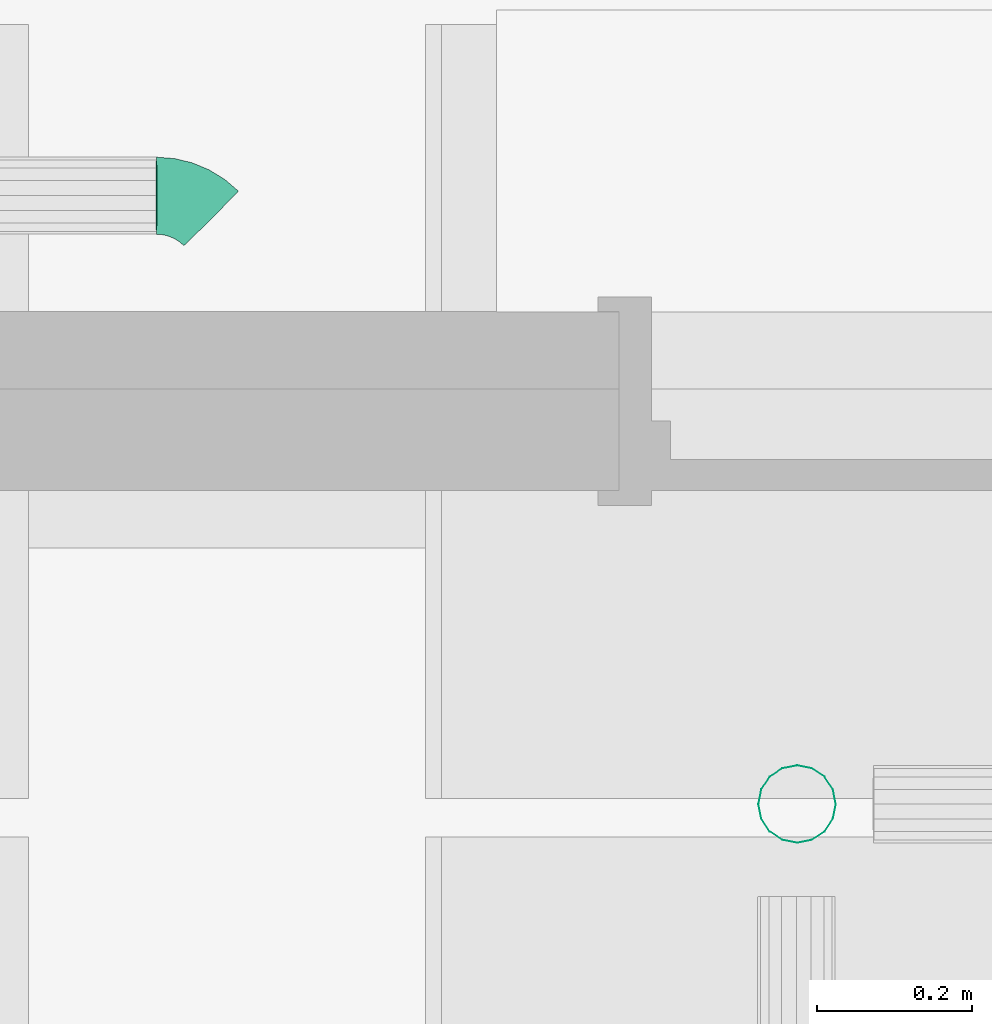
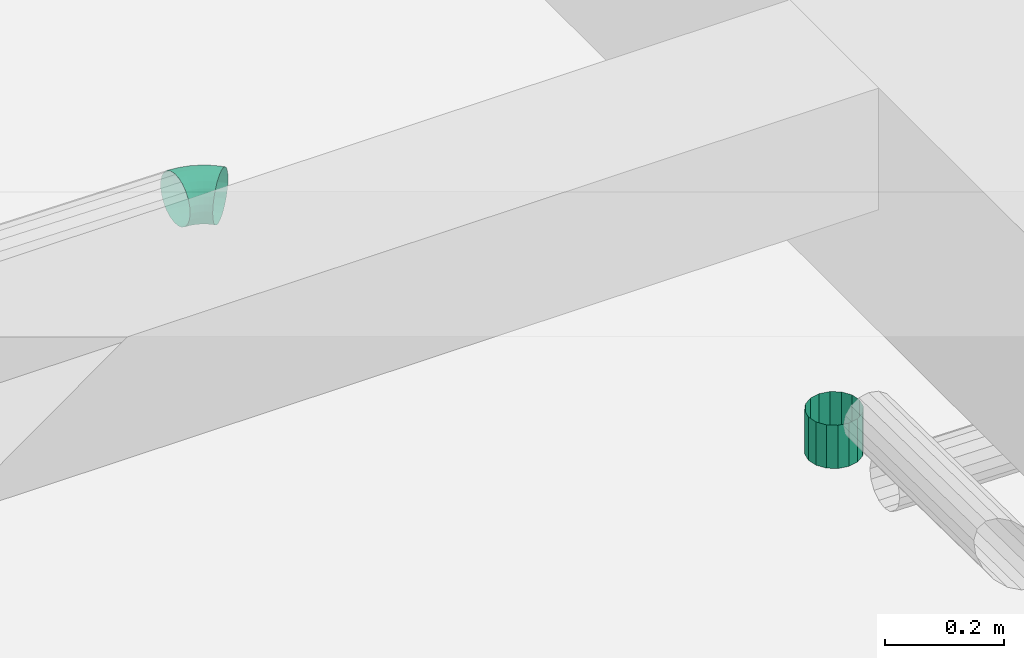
# One storey, part 96 of 108: 1 flow fitting, 1 flow segment.
"""IFC2X3 building model written with IfcOpenShell, lengths in metres."""

from ifc_helpers import new_model, entity, si_unit, converted_unit, derived_unit, money_unit, direction, frame, origin_with_axes, place, context, subcontext, project, spatial, open_shell, faceted_brep, surface_model, material, type_object, element, save


model = new_model("IFC2X3")

# Units and contexts
model_context = context("Model", 3, precision=1e-05, world=origin_with_axes(), true_north=direction((0.0, 1.0)))
body_context = subcontext(model_context, "Body", "Model", "MODEL_VIEW", scale=1.0)
ifc_project = project(units=[si_unit("LENGTHUNIT", "METRE"), si_unit("AREAUNIT", "SQUARE_METRE"), si_unit("VOLUMEUNIT", "CUBIC_METRE"), si_unit("ABSORBEDDOSEUNIT", "GRAY"), si_unit("AMOUNTOFSUBSTANCEUNIT", "MOLE"), si_unit("DOSEEQUIVALENTUNIT", "SIEVERT"), si_unit("ELECTRICCAPACITANCEUNIT", "FARAD"), si_unit("ELECTRICCHARGEUNIT", "COULOMB"), si_unit("ELECTRICCONDUCTANCEUNIT", "SIEMENS"), si_unit("ELECTRICCURRENTUNIT", "AMPERE"), si_unit("ELECTRICRESISTANCEUNIT", "OHM"), si_unit("ELECTRICVOLTAGEUNIT", "VOLT"), si_unit("ENERGYUNIT", "JOULE"), si_unit("FORCEUNIT", "NEWTON"), si_unit("FREQUENCYUNIT", "HERTZ"), si_unit("ILLUMINANCEUNIT", "LUX"), si_unit("INDUCTANCEUNIT", "HENRY"), si_unit("LUMINOUSFLUXUNIT", "LUMEN"), si_unit("LUMINOUSINTENSITYUNIT", "CANDELA"), si_unit("MAGNETICFLUXDENSITYUNIT", "TESLA"), si_unit("MAGNETICFLUXUNIT", "WEBER"), si_unit("MASSUNIT", "GRAM"), converted_unit("PLANEANGLEUNIT", "degree", entity("IfcReal", 0.0174532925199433), si_unit("PLANEANGLEUNIT", "RADIAN"), dimensions=[0, 0, 0, 0, 0, 0, 0]), si_unit("POWERUNIT", "WATT"), si_unit("PRESSUREUNIT", "PASCAL"), si_unit("RADIOACTIVITYUNIT", "BECQUEREL"), si_unit("SOLIDANGLEUNIT", "STERADIAN"), si_unit("THERMODYNAMICTEMPERATUREUNIT", "KELVIN"), si_unit("TIMEUNIT", "SECOND"), derived_unit("ACCELERATIONUNIT", [(si_unit("LENGTHUNIT", "METRE"), 1), (si_unit("TIMEUNIT", "SECOND"), -2)]), derived_unit("ANGULARVELOCITYUNIT", [(converted_unit("PLANEANGLEUNIT", "degree", entity("IfcReal", 0.0174532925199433), si_unit("PLANEANGLEUNIT", "RADIAN"), dimensions=[0, 0, 0, 0, 0, 0, 0]), 1), (si_unit("TIMEUNIT", "SECOND"), -1)]), derived_unit("CURVATUREUNIT", [(converted_unit("PLANEANGLEUNIT", "degree", entity("IfcReal", 0.0174532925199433), si_unit("PLANEANGLEUNIT", "RADIAN"), dimensions=[0, 0, 0, 0, 0, 0, 0]), 1), (si_unit("LENGTHUNIT", "METRE"), -1)]), derived_unit("DYNAMICVISCOSITYUNIT", [(si_unit("PRESSUREUNIT", "PASCAL"), 1), (si_unit("TIMEUNIT", "SECOND"), 1)]), derived_unit("HEATFLUXDENSITYUNIT", [(si_unit("POWERUNIT", "WATT"), 1), (si_unit("LENGTHUNIT", "METRE"), -2)]), derived_unit("HEATINGVALUEUNIT", [(si_unit("ENERGYUNIT", "JOULE"), 1), (si_unit("MASSUNIT", "GRAM"), -1)]), derived_unit("INTEGERCOUNTRATEUNIT", [(si_unit("TIMEUNIT", "SECOND"), -1)]), derived_unit("IONCONCENTRATIONUNIT", [(si_unit("MASSUNIT", "GRAM"), 1), (si_unit("VOLUMEUNIT", "CUBIC_METRE"), -1)]), derived_unit("ISOTHERMALMOISTURECAPACITYUNIT", [(si_unit("VOLUMEUNIT", "CUBIC_METRE"), 1), (si_unit("MASSUNIT", "GRAM"), -1)]), derived_unit("KINEMATICVISCOSITYUNIT", [(si_unit("AREAUNIT", "SQUARE_METRE"), 1), (si_unit("TIMEUNIT", "SECOND"), -1)]), derived_unit("LINEARFORCEUNIT", [(si_unit("FORCEUNIT", "NEWTON"), 1), (si_unit("LENGTHUNIT", "METRE"), -1)]), derived_unit("LINEARMOMENTUNIT", [(si_unit("FORCEUNIT", "NEWTON"), 1), (si_unit("LENGTHUNIT", "METRE"), -1)]), derived_unit("LINEARSTIFFNESSUNIT", [(si_unit("FORCEUNIT", "NEWTON"), 1), (si_unit("LENGTHUNIT", "METRE"), -1)]), derived_unit("LINEARVELOCITYUNIT", [(si_unit("LENGTHUNIT", "METRE"), 1), (si_unit("TIMEUNIT", "SECOND"), -1)]), derived_unit("LUMINOUSINTENSITYDISTRIBUTIONUNIT", [(si_unit("LUMINOUSINTENSITYUNIT", "CANDELA"), 1), (si_unit("LUMINOUSFLUXUNIT", "LUMEN"), -1)]), derived_unit("MASSDENSITYUNIT", [(si_unit("MASSUNIT", "GRAM"), 1), (si_unit("VOLUMEUNIT", "CUBIC_METRE"), -1)]), derived_unit("MASSFLOWRATEUNIT", [(si_unit("MASSUNIT", "GRAM"), 1), (si_unit("TIMEUNIT", "SECOND"), -1)]), derived_unit("MASSPERLENGTHUNIT", [(si_unit("MASSUNIT", "GRAM"), 1), (si_unit("LENGTHUNIT", "METRE"), -1)]), derived_unit("MODULUSOFELASTICITYUNIT", [(si_unit("FORCEUNIT", "NEWTON"), 1), (si_unit("AREAUNIT", "SQUARE_METRE"), -1)]), derived_unit("MODULUSOFLINEARSUBGRADEREACTIONUNIT", [(si_unit("FORCEUNIT", "NEWTON"), 1), (si_unit("LENGTHUNIT", "METRE"), -2)]), derived_unit("MODULUSOFROTATIONALSUBGRADEREACTIONUNIT", [(si_unit("FORCEUNIT", "NEWTON"), 1), (si_unit("LENGTHUNIT", "METRE"), 1)]), derived_unit("MODULUSOFSUBGRADEREACTIONUNIT", [(si_unit("FORCEUNIT", "NEWTON"), 1), (si_unit("VOLUMEUNIT", "CUBIC_METRE"), -1)]), derived_unit("MOISTUREDIFFUSIVITYUNIT", [(si_unit("VOLUMEUNIT", "CUBIC_METRE"), 1), (si_unit("TIMEUNIT", "SECOND"), -1)]), derived_unit("MOLECULARWEIGHTUNIT", [(si_unit("MASSUNIT", "GRAM"), 1), (si_unit("AMOUNTOFSUBSTANCEUNIT", "MOLE"), -1)]), derived_unit("PLANARFORCEUNIT", [(si_unit("FORCEUNIT", "NEWTON"), 1), (si_unit("LENGTHUNIT", "METRE"), -2)]), derived_unit("ROTATIONALFREQUENCYUNIT", [(si_unit("TIMEUNIT", "SECOND"), -1)]), derived_unit("ROTATIONALMASSUNIT", [(si_unit("MASSUNIT", "GRAM"), 1), (si_unit("LENGTHUNIT", "METRE"), 2)]), derived_unit("ROTATIONALSTIFFNESSUNIT", [(si_unit("FORCEUNIT", "NEWTON"), 1), (si_unit("LENGTHUNIT", "METRE"), 1), (converted_unit("PLANEANGLEUNIT", "degree", entity("IfcReal", 0.0174532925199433), si_unit("PLANEANGLEUNIT", "RADIAN"), dimensions=[0, 0, 0, 0, 0, 0, 0]), -1)]), derived_unit("SECTIONAREAINTEGRALUNIT", [(si_unit("LENGTHUNIT", "METRE"), 5)]), derived_unit("SECTIONMODULUSUNIT", [(si_unit("LENGTHUNIT", "METRE"), 3)]), derived_unit("SHEARMODULUSUNIT", [(si_unit("FORCEUNIT", "NEWTON"), 1), (si_unit("AREAUNIT", "SQUARE_METRE"), -1)]), derived_unit("SOUNDPOWERUNIT", [(si_unit("ENERGYUNIT", "JOULE"), 1), (si_unit("TIMEUNIT", "SECOND"), -1)]), derived_unit("SPECIFICHEATCAPACITYUNIT", [(si_unit("FORCEUNIT", "NEWTON"), 1), (si_unit("MASSUNIT", "GRAM"), -1), (si_unit("THERMODYNAMICTEMPERATUREUNIT", "KELVIN"), -1)]), derived_unit("TEMPERATUREGRADIENTUNIT", [(si_unit("THERMODYNAMICTEMPERATUREUNIT", "KELVIN"), 1), (si_unit("LENGTHUNIT", "METRE"), -1)]), derived_unit("THERMALADMITTANCEUNIT", [(si_unit("POWERUNIT", "WATT"), 1), (si_unit("AREAUNIT", "SQUARE_METRE"), -1), (si_unit("THERMODYNAMICTEMPERATUREUNIT", "KELVIN"), -1)]), derived_unit("THERMALCONDUCTANCEUNIT", [(si_unit("POWERUNIT", "WATT"), 1), (si_unit("LENGTHUNIT", "METRE"), -1), (si_unit("THERMODYNAMICTEMPERATUREUNIT", "KELVIN"), -1)]), derived_unit("THERMALEXPANSIONCOEFFICIENTUNIT", [(si_unit("THERMODYNAMICTEMPERATUREUNIT", "KELVIN"), -1)]), derived_unit("THERMALRESISTANCEUNIT", [(si_unit("AREAUNIT", "SQUARE_METRE"), 1), (si_unit("POWERUNIT", "WATT"), -1)]), derived_unit("THERMALTRANSMITTANCEUNIT", [(si_unit("POWERUNIT", "WATT"), 1), (si_unit("AREAUNIT", "SQUARE_METRE"), -1), (si_unit("THERMODYNAMICTEMPERATUREUNIT", "KELVIN"), -1)]), derived_unit("TORQUEUNIT", [(si_unit("FORCEUNIT", "NEWTON"), 1), (si_unit("LENGTHUNIT", "METRE"), 1)]), derived_unit("VAPORPERMEABILITYUNIT", [(si_unit("MASSUNIT", "GRAM"), 1), (si_unit("TIMEUNIT", "SECOND"), -1)]), derived_unit("VOLUMETRICFLOWRATEUNIT", [(si_unit("VOLUMEUNIT", "CUBIC_METRE"), 1), (si_unit("TIMEUNIT", "SECOND"), -1)]), derived_unit("WARPINGCONSTANTUNIT", [(si_unit("LENGTHUNIT", "METRE"), 6)]), derived_unit("WARPINGMOMENTUNIT", [(si_unit("FORCEUNIT", "NEWTON"), 1), (si_unit("LENGTHUNIT", "METRE"), 2)]), money_unit("GBP")], contexts=[model_context])

# Site, building, storey
site_placement = place(None, origin_with_axes())
site = spatial("IfcSite", under=ifc_project, at=site_placement, Name="Site", CompositionType="ELEMENT")
building_placement = place(site_placement, origin_with_axes())
building = spatial("IfcBuilding", under=site, at=building_placement, Name="Building01", CompositionType="ELEMENT")
storey_placement = place(building_placement, origin_with_axes())
storey = spatial("IfcBuildingStorey", under=building, at=storey_placement, Name="GF", CompositionType="ELEMENT", Elevation=0.0)

# Flow segment
ifc_material = material(Name="M_BSUK_ColdWater")
pipe_segment_type = type_object("IfcPipeSegmentType", Name="M-BmpStraightpipe-DefaultPipe", PredefinedType="RIGIDSEGMENT")
flow_segment_placement = place(storey_placement, frame((17.406946, 8.516912, 4.539254), z_axis=(1.0, 0.0, 0.0), x_axis=(0.0, 0.0, -1.0)))
element("IfcFlowSegment", 1, at=flow_segment_placement, inside=storey, type_object=pipe_segment_type, material=ifc_material, Name="M-BmpStraightpipe-DefaultPipe", ObjectType="M-BmpStraightpipe-DefaultPipe", context=body_context, shape_type="Brep", body=[
    faceted_brep([(0.08898, 0.0, -0.05), (0.0, 0.0, -0.05), (0.0, 0.019134, -0.046194), (0.08898, 0.019134, -0.046194), (0.0, 0.035355, -0.035355), (0.08898, 0.035355, -0.035355), (0.0, 0.046194, -0.019134), (0.08898, 0.046194, -0.019134), (0.0, 0.05, 0.0), (0.08898, 0.05, 0.0), (0.0, 0.046194, 0.019134), (0.08898, 0.046194, 0.019134), (0.0, 0.035355, 0.035355), (0.08898, 0.035355, 0.035355), (0.0, 0.019134, 0.046194), (0.08898, 0.019134, 0.046194), (0.0, 0.0, 0.05), (0.08898, 0.0, 0.05), (0.0, -0.019134, 0.046194), (0.08898, -0.019134, 0.046194), (0.0, -0.035355, 0.035355), (0.08898, -0.035355, 0.035355), (0.0, -0.046194, 0.019134), (0.08898, -0.046194, 0.019134), (0.0, -0.05, 0.0), (0.08898, -0.05, 0.0), (0.0, -0.046194, -0.019134), (0.08898, -0.046194, -0.019134), (0.0, -0.035355, -0.035355), (0.08898, -0.035355, -0.035355), (0.0, -0.019134, -0.046194), (0.08898, -0.019134, -0.046194)], [[[0, 1, 2, 3]], [[3, 2, 4, 5]], [[5, 4, 6, 7]], [[7, 6, 8, 9]], [[9, 8, 10, 11]], [[11, 10, 12, 13]], [[13, 12, 14, 15]], [[15, 14, 16, 17]], [[17, 16, 18, 19]], [[19, 18, 20, 21]], [[21, 20, 22, 23]], [[23, 22, 24, 25]], [[25, 24, 26, 27]], [[27, 26, 28, 29]], [[29, 28, 30, 31]], [[31, 30, 1, 0]]]),
])

# Flow fitting
pipe_fitting_type = type_object("IfcPipeFittingType", Name="M-BmpElbow-DefaultElbow", PredefinedType="BEND")
flow_fitting_placement = place(storey_placement, frame((16.579389, 9.303054, 4.783227), z_axis=(6.471e-05, 0.9999866, 0.00517679), x_axis=(0.99992188, 0.0, -0.01249902)))
element("IfcFlowFitting", 2, at=flow_fitting_placement, inside=storey, type_object=pipe_fitting_type, material=ifc_material, Name="M-BmpElbow-DefaultElbow", ObjectType="M-BmpElbow-DefaultElbow", context=body_context, shape_type="SurfaceModel", body=[
    surface_model("IfcShellBasedSurfaceModel", [(0.008111, -0.01349, -0.048784), (0.0, -0.01349, -0.048146), (0.0, 0.0, -0.05), (0.007821, 0.0, -0.050615), (0.016023, -0.01349, -0.050683), (0.01545, 0.0, -0.052447), (0.023539, -0.01349, -0.053797), (0.022698, 0.0, -0.055449), (0.030477, -0.01349, -0.058048), (0.029387, 0.0, -0.059548), (0.036664, -0.01349, -0.063331), (0.035353, 0.0, -0.064642), (0.00896, -0.025979, -0.043426), (0.0, -0.025979, -0.042721), (0.017699, -0.025979, -0.045524), (0.026002, -0.025979, -0.048963), (0.033665, -0.025979, -0.053659), (0.0405, -0.025979, -0.059495), (0.010304, -0.036542, -0.034939), (0.0, -0.036542, -0.034128), (0.020354, -0.036542, -0.037351), (0.029903, -0.036542, -0.041306), (0.038716, -0.036542, -0.046706), (0.046576, -0.036542, -0.053418), (0.012044, -0.044394, -0.023951), (0.0, -0.044394, -0.023003), (0.023791, -0.044394, -0.026771), (0.034953, -0.044394, -0.031394), (0.045254, -0.044394, -0.037706), (0.054441, -0.044394, -0.045552), (0.014051, -0.048954, -0.011279), (0.0, -0.048954, -0.010173), (0.027756, -0.048954, -0.014569), (0.040778, -0.048954, -0.019962), (0.052795, -0.048954, -0.027326), (0.063513, -0.048954, -0.036478), (0.016176, -0.049883, 0.002139), (0.0, -0.049883, 0.003412), (0.031954, -0.049883, -0.001648), (0.046945, -0.049883, -0.007857), (0.06078, -0.049883, -0.016335), (0.073119, -0.049883, -0.026872), (0.018261, -0.047113, 0.015307), (0.0, -0.047113, 0.016744), (0.036073, -0.047113, 0.011031), (0.052997, -0.047113, 0.004022), (0.068616, -0.047113, -0.005549), (0.082545, -0.047113, -0.017444), (0.020152, -0.040848, 0.027248), (0.0, -0.040848, 0.028834), (0.039809, -0.040848, 0.022529), (0.058485, -0.040848, 0.014794), (0.075721, -0.040848, 0.004233), (0.091094, -0.040848, -0.008895), (0.021709, -0.031554, 0.037077), (0.0, -0.031554, 0.038786), (0.042884, -0.031554, 0.031994), (0.063003, -0.031554, 0.023661), (0.08157, -0.031554, 0.012284), (0.09813, -0.031554, -0.001857), (0.022816, -0.01992, 0.044065), (0.0, -0.01992, 0.045861), (0.04507, -0.01992, 0.038723), (0.066214, -0.01992, 0.029965), (0.085729, -0.01992, 0.018008), (0.103132, -0.01992, 0.003146), (0.02339, -0.006808, 0.047694), (0.0, -0.006808, 0.049534), (0.046205, -0.006808, 0.042217), (0.067882, -0.006808, 0.033239), (0.087888, -0.006808, 0.02098), (0.10573, -0.006808, 0.005744), (0.02339, 0.006808, 0.047694), (0.0, 0.006808, 0.049534), (0.046205, 0.006808, 0.042217), (0.067882, 0.006808, 0.033239), (0.087888, 0.006808, 0.02098), (0.10573, 0.006808, 0.005744), (0.022816, 0.01992, 0.044065), (0.0, 0.01992, 0.045861), (0.04507, 0.01992, 0.038723), (0.066214, 0.01992, 0.029965), (0.085729, 0.01992, 0.018008), (0.103132, 0.01992, 0.003146), (0.021709, 0.031554, 0.037077), (0.0, 0.031554, 0.038786), (0.042884, 0.031554, 0.031994), (0.063003, 0.031554, 0.023661), (0.08157, 0.031554, 0.012284), (0.09813, 0.031554, -0.001857), (0.020152, 0.040848, 0.027248), (0.0, 0.040848, 0.028834), (0.039809, 0.040848, 0.022529), (0.058485, 0.040848, 0.014794), (0.075721, 0.040848, 0.004233), (0.091094, 0.040848, -0.008895), (0.018261, 0.047113, 0.015307), (0.0, 0.047113, 0.016744), (0.036073, 0.047113, 0.011031), (0.052997, 0.047113, 0.004022), (0.068616, 0.047113, -0.005549), (0.082545, 0.047113, -0.017444), (0.016176, 0.049883, 0.002139), (0.0, 0.049883, 0.003412), (0.031954, 0.049883, -0.001648), (0.046945, 0.049883, -0.007857), (0.06078, 0.049883, -0.016335), (0.073119, 0.049883, -0.026872), (0.014051, 0.048954, -0.011279), (0.0, 0.048954, -0.010173), (0.027756, 0.048954, -0.014569), (0.040778, 0.048954, -0.019962), (0.052795, 0.048954, -0.027326), (0.063513, 0.048954, -0.036478), (0.012044, 0.044394, -0.023951), (0.0, 0.044394, -0.023003), (0.023791, 0.044394, -0.026771), (0.034953, 0.044394, -0.031394), (0.045254, 0.044394, -0.037706), (0.054441, 0.044394, -0.045552), (0.010304, 0.036542, -0.034939), (0.0, 0.036542, -0.034128), (0.020354, 0.036542, -0.037351), (0.029903, 0.036542, -0.041306), (0.038716, 0.036542, -0.046706), (0.046576, 0.036542, -0.053418), (0.00896, 0.025979, -0.043426), (0.0, 0.025979, -0.042721), (0.017699, 0.025979, -0.045524), (0.026002, 0.025979, -0.048963), (0.033665, 0.025979, -0.053659), (0.0405, 0.025979, -0.059495), (0.008111, 0.01349, -0.048784), (0.0, 0.01349, -0.048146), (0.016023, 0.01349, -0.050683), (0.023539, 0.01349, -0.053797), (0.030477, 0.01349, -0.058048), (0.036664, 0.01349, -0.063331)], [open_shell([[[0, 1, 2, 3]], [[4, 0, 3, 5]], [[6, 4, 5, 7]], [[8, 6, 7, 9]], [[10, 8, 9, 11]], [[12, 13, 1, 0]], [[14, 12, 0, 4]], [[15, 14, 4, 6]], [[16, 15, 6, 8]], [[17, 16, 8, 10]], [[18, 19, 13, 12]], [[20, 18, 12, 14]], [[21, 20, 14, 15]], [[22, 21, 15, 16]], [[23, 22, 16, 17]], [[24, 25, 19, 18]], [[26, 24, 18, 20]], [[27, 26, 20, 21]], [[28, 27, 21, 22]], [[29, 28, 22, 23]], [[30, 31, 25, 24]], [[32, 30, 24, 26]], [[33, 32, 26, 27]], [[34, 33, 27, 28]], [[35, 34, 28, 29]], [[36, 37, 31, 30]], [[38, 36, 30, 32]], [[39, 38, 32, 33]], [[40, 39, 33, 34]], [[41, 40, 34, 35]], [[42, 43, 37, 36]], [[44, 42, 36, 38]], [[45, 44, 38, 39]], [[46, 45, 39, 40]], [[47, 46, 40, 41]], [[48, 49, 43, 42]], [[50, 48, 42, 44]], [[51, 50, 44, 45]], [[52, 51, 45, 46]], [[53, 52, 46, 47]], [[54, 55, 49, 48]], [[56, 54, 48, 50]], [[57, 56, 50, 51]], [[58, 57, 51, 52]], [[59, 58, 52, 53]], [[60, 61, 55, 54]], [[62, 60, 54, 56]], [[63, 62, 56, 57]], [[64, 63, 57, 58]], [[65, 64, 58, 59]], [[66, 67, 61, 60]], [[68, 66, 60, 62]], [[69, 68, 62, 63]], [[70, 69, 63, 64]], [[71, 70, 64, 65]], [[72, 73, 67, 66]], [[74, 72, 66, 68]], [[75, 74, 68, 69]], [[76, 75, 69, 70]], [[77, 76, 70, 71]], [[78, 79, 73, 72]], [[80, 78, 72, 74]], [[81, 80, 74, 75]], [[82, 81, 75, 76]], [[83, 82, 76, 77]], [[84, 85, 79, 78]], [[86, 84, 78, 80]], [[87, 86, 80, 81]], [[88, 87, 81, 82]], [[89, 88, 82, 83]], [[90, 91, 85, 84]], [[92, 90, 84, 86]], [[93, 92, 86, 87]], [[94, 93, 87, 88]], [[95, 94, 88, 89]], [[96, 97, 91, 90]], [[98, 96, 90, 92]], [[99, 98, 92, 93]], [[100, 99, 93, 94]], [[101, 100, 94, 95]], [[102, 103, 97, 96]], [[104, 102, 96, 98]], [[105, 104, 98, 99]], [[106, 105, 99, 100]], [[107, 106, 100, 101]], [[108, 109, 103, 102]], [[110, 108, 102, 104]], [[111, 110, 104, 105]], [[112, 111, 105, 106]], [[113, 112, 106, 107]], [[114, 115, 109, 108]], [[116, 114, 108, 110]], [[117, 116, 110, 111]], [[118, 117, 111, 112]], [[119, 118, 112, 113]], [[120, 121, 115, 114]], [[122, 120, 114, 116]], [[123, 122, 116, 117]], [[124, 123, 117, 118]], [[125, 124, 118, 119]], [[126, 127, 121, 120]], [[128, 126, 120, 122]], [[129, 128, 122, 123]], [[130, 129, 123, 124]], [[131, 130, 124, 125]], [[132, 133, 127, 126]], [[134, 132, 126, 128]], [[135, 134, 128, 129]], [[136, 135, 129, 130]], [[137, 136, 130, 131]], [[3, 2, 133, 132]], [[5, 3, 132, 134]], [[7, 5, 134, 135]], [[9, 7, 135, 136]], [[11, 9, 136, 137]]])]),
])

save(model, "model.ifc")
